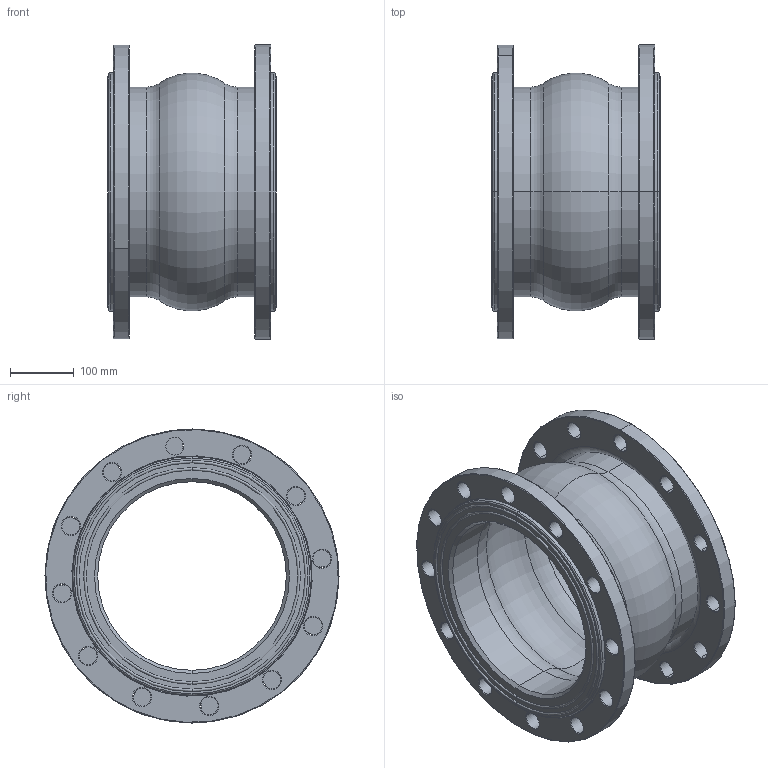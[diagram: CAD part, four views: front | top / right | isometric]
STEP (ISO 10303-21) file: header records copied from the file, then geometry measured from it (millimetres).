
FILE_DESCRIPTION (( 'STEP AP203' ), '1' );
FILE_NAME ('DN300 PN16.STEP', '2026-07-16T06:33:15', ( 'Windows 蚚誧' ), ( '' ), 'SwSTEP 2.0', 'SolidWorks 2018', '' );
FILE_SCHEMA (( 'CONFIG_CONTROL_DESIGN' ));
Length unit declared in the file: millimetre
Products named in the file (3): DN300; DN300 PN16
Assembly tree (3 placements, depth 2):
  DN300 PN16
    DN300
    DN300 PN16  x2
Bounding box: 264 x 460 x 460 mm (x, y, z)
Volume: 8512761.6 mm3; surface area: 1216791.8 mm2
Topology: 3 solids, 3 shells, 252 faces, 552 edges, 316 vertices
Faces by surface type: torus 152, cylinder 80, plane 16, cone 4
Entity records: 4741 total; most frequent: DIRECTION 956, CARTESIAN_POINT 698, ORIENTED_EDGE 680, AXIS2_PLACEMENT_3D 452, EDGE_CURVE 340, CIRCLE 288, VERTEX_POINT 194, EDGE_LOOP 194
